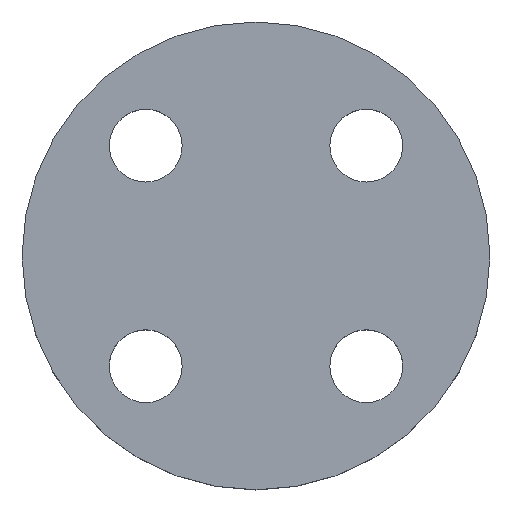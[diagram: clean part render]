
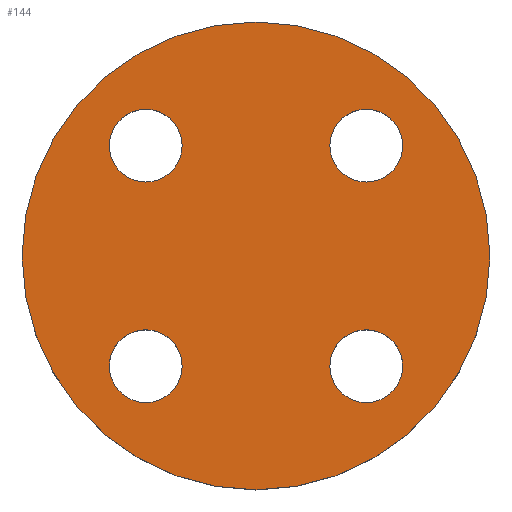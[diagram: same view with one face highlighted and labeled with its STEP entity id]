
A CAD part, top view. The second image highlights one B-rep face of the part: STEP entity #144.
In plain terms, the highlighted planar face has unit normal (0, 0, 1).
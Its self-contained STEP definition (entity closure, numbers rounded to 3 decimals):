
#6 = AXIS2_PLACEMENT_3D ( 'NONE', #408, #409, #410 ) ;
#7 = CIRCLE ( 'NONE', #6, 7. ) ;
#8 = AXIS2_PLACEMENT_3D ( 'NONE', #395, #406, #407 ) ;
#9 = AXIS2_PLACEMENT_3D ( 'NONE', #278, #279, #280 ) ;
#10 = CIRCLE ( 'NONE', #8, 7. ) ;
#15 = CIRCLE ( 'NONE', #64, 7. ) ;
#16 = CIRCLE ( 'NONE', #27, 45. ) ;
#17 = CIRCLE ( 'NONE', #79, 45. ) ;
#20 = CIRCLE ( 'NONE', #95, 7. ) ;
#23 = CIRCLE ( 'NONE', #9, 7. ) ;
#24 = EDGE_CURVE ( 'NONE', #191, #202, #87, .T. ) ;
#27 = AXIS2_PLACEMENT_3D ( 'NONE', #389, #390, #391 ) ;
#32 = AXIS2_PLACEMENT_3D ( 'NONE', #341, #342, #343 ) ;
#37 = CIRCLE ( 'NONE', #32, 7. ) ;
#50 = EDGE_CURVE ( 'NONE', #203, #117, #20, .T. ) ;
#51 = AXIS2_PLACEMENT_3D ( 'NONE', #385, #386, #387 ) ;
#55 = AXIS2_PLACEMENT_3D ( 'NONE', #325, #326, #327 ) ;
#57 = AXIS2_PLACEMENT_3D ( 'NONE', #222, #223, #225 ) ;
#64 = AXIS2_PLACEMENT_3D ( 'NONE', #382, #383, #384 ) ;
#67 = CIRCLE ( 'NONE', #51, 7. ) ;
#79 = AXIS2_PLACEMENT_3D ( 'NONE', #300, #301, #302 ) ;
#87 = CIRCLE ( 'NONE', #57, 7. ) ;
#92 = EDGE_CURVE ( 'NONE', #123, #103, #23, .T. ) ;
#95 = AXIS2_PLACEMENT_3D ( 'NONE', #239, #240, #241 ) ;
#102 = EDGE_LOOP ( 'NONE', ( #179, #178 ) ) ;
#103 = VERTEX_POINT ( 'NONE', #285 ) ;
#107 = EDGE_LOOP ( 'NONE', ( #184, #183 ) ) ;
#108 = VERTEX_POINT ( 'NONE', #294 ) ;
#113 = EDGE_CURVE ( 'NONE', #136, #209, #17, .T. ) ;
#114 = EDGE_LOOP ( 'NONE', ( #182, #181 ) ) ;
#117 = VERTEX_POINT ( 'NONE', #304 ) ;
#123 = VERTEX_POINT ( 'NONE', #311 ) ;
#136 = VERTEX_POINT ( 'NONE', #317 ) ;
#139 = EDGE_LOOP ( 'NONE', ( #175, #173 ) ) ;
#144 = ADVANCED_FACE ( 'NONE', ( #318, #319, #321, #322, #323 ), #324, .T. ) ;
#145 = VERTEX_POINT ( 'NONE', #328 ) ;
#153 = EDGE_LOOP ( 'NONE', ( #177, #176 ) ) ;
#162 = EDGE_CURVE ( 'NONE', #103, #123, #37, .T. ) ;
#173 = ORIENTED_EDGE ( 'NONE', *, *, #413, .T. ) ;
#175 = ORIENTED_EDGE ( 'NONE', *, *, #113, .T. ) ;
#176 = ORIENTED_EDGE ( 'NONE', *, *, #402, .T. ) ;
#177 = ORIENTED_EDGE ( 'NONE', *, *, #320, .T. ) ;
#178 = ORIENTED_EDGE ( 'NONE', *, *, #435, .T. ) ;
#179 = ORIENTED_EDGE ( 'NONE', *, *, #50, .T. ) ;
#181 = ORIENTED_EDGE ( 'NONE', *, *, #24, .T. ) ;
#182 = ORIENTED_EDGE ( 'NONE', *, *, #436, .T. ) ;
#183 = ORIENTED_EDGE ( 'NONE', *, *, #162, .T. ) ;
#184 = ORIENTED_EDGE ( 'NONE', *, *, #92, .T. ) ;
#191 = VERTEX_POINT ( 'NONE', #361 ) ;
#202 = VERTEX_POINT ( 'NONE', #362 ) ;
#203 = VERTEX_POINT ( 'NONE', #363 ) ;
#209 = VERTEX_POINT ( 'NONE', #365 ) ;
#222 = CARTESIAN_POINT ( 'NONE',  ( -21.213, -21.213, 0. ) ) ;
#223 = DIRECTION ( 'NONE',  ( 0., 0., -1. ) ) ;
#225 = DIRECTION ( 'NONE',  ( -1., 0., 0. ) ) ;
#239 = CARTESIAN_POINT ( 'NONE',  ( -21.213, 21.213, 0. ) ) ;
#240 = DIRECTION ( 'NONE',  ( 0., 0., -1. ) ) ;
#241 = DIRECTION ( 'NONE',  ( -1., 0., 0. ) ) ;
#278 = CARTESIAN_POINT ( 'NONE',  ( 21.213, -21.213, 0. ) ) ;
#279 = DIRECTION ( 'NONE',  ( 0., 0., -1. ) ) ;
#280 = DIRECTION ( 'NONE',  ( -1., 0., 0. ) ) ;
#285 = CARTESIAN_POINT ( 'NONE',  ( 14.213, -21.213, 0. ) ) ;
#294 = CARTESIAN_POINT ( 'NONE',  ( 14.213, 21.213, 0. ) ) ;
#300 = CARTESIAN_POINT ( 'NONE',  ( 0., 0., 0. ) ) ;
#301 = DIRECTION ( 'NONE',  ( 0., 0., 1. ) ) ;
#302 = DIRECTION ( 'NONE',  ( 1., 0., 0. ) ) ;
#304 = CARTESIAN_POINT ( 'NONE',  ( -28.213, 21.213, 0. ) ) ;
#311 = CARTESIAN_POINT ( 'NONE',  ( 28.213, -21.213, 0. ) ) ;
#317 = CARTESIAN_POINT ( 'NONE',  ( 45., 0., 0. ) ) ;
#318 = FACE_BOUND ( 'NONE', #107, .T. ) ;
#319 = FACE_BOUND ( 'NONE', #114, .T. ) ;
#320 = EDGE_CURVE ( 'NONE', #145, #108, #15, .T. ) ;
#321 = FACE_BOUND ( 'NONE', #102, .T. ) ;
#322 = FACE_BOUND ( 'NONE', #153, .T. ) ;
#323 = FACE_OUTER_BOUND ( 'NONE', #139, .T. ) ;
#324 = PLANE ( 'NONE',  #55 ) ;
#325 = CARTESIAN_POINT ( 'NONE',  ( 0., 0., 0. ) ) ;
#326 = DIRECTION ( 'NONE',  ( 0., 0., 1. ) ) ;
#327 = DIRECTION ( 'NONE',  ( 1., 0., 0. ) ) ;
#328 = CARTESIAN_POINT ( 'NONE',  ( 28.213, 21.213, 0. ) ) ;
#341 = CARTESIAN_POINT ( 'NONE',  ( 21.213, -21.213, 0. ) ) ;
#342 = DIRECTION ( 'NONE',  ( 0., 0., -1. ) ) ;
#343 = DIRECTION ( 'NONE',  ( -1., 0., 0. ) ) ;
#361 = CARTESIAN_POINT ( 'NONE',  ( -28.213, -21.213, 0. ) ) ;
#362 = CARTESIAN_POINT ( 'NONE',  ( -14.213, -21.213, 0. ) ) ;
#363 = CARTESIAN_POINT ( 'NONE',  ( -14.213, 21.213, 0. ) ) ;
#365 = CARTESIAN_POINT ( 'NONE',  ( -45., 0., 0. ) ) ;
#382 = CARTESIAN_POINT ( 'NONE',  ( 21.213, 21.213, 0. ) ) ;
#383 = DIRECTION ( 'NONE',  ( 0., 0., -1. ) ) ;
#384 = DIRECTION ( 'NONE',  ( -1., 0., 0. ) ) ;
#385 = CARTESIAN_POINT ( 'NONE',  ( 21.213, 21.213, 0. ) ) ;
#386 = DIRECTION ( 'NONE',  ( 0., 0., -1. ) ) ;
#387 = DIRECTION ( 'NONE',  ( -1., 0., 0. ) ) ;
#389 = CARTESIAN_POINT ( 'NONE',  ( 0., 0., 0. ) ) ;
#390 = DIRECTION ( 'NONE',  ( 0., 0., 1. ) ) ;
#391 = DIRECTION ( 'NONE',  ( 1., 0., 0. ) ) ;
#395 = CARTESIAN_POINT ( 'NONE',  ( -21.213, 21.213, 0. ) ) ;
#402 = EDGE_CURVE ( 'NONE', #108, #145, #67, .T. ) ;
#406 = DIRECTION ( 'NONE',  ( 0., 0., -1. ) ) ;
#407 = DIRECTION ( 'NONE',  ( -1., 0., 0. ) ) ;
#408 = CARTESIAN_POINT ( 'NONE',  ( -21.213, -21.213, 0. ) ) ;
#409 = DIRECTION ( 'NONE',  ( 0., 0., -1. ) ) ;
#410 = DIRECTION ( 'NONE',  ( -1., 0., 0. ) ) ;
#413 = EDGE_CURVE ( 'NONE', #209, #136, #16, .T. ) ;
#435 = EDGE_CURVE ( 'NONE', #117, #203, #10, .T. ) ;
#436 = EDGE_CURVE ( 'NONE', #202, #191, #7, .T. ) ;
